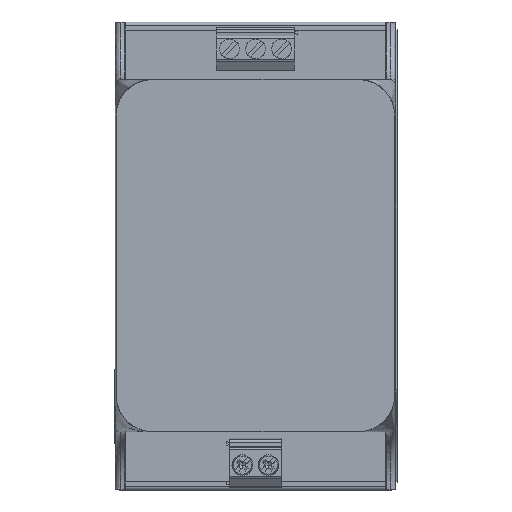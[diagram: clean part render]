
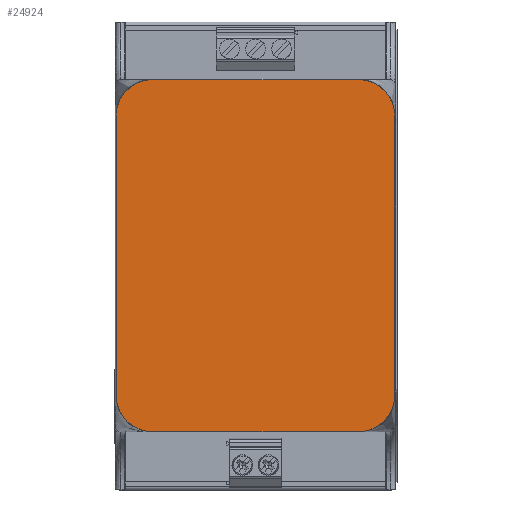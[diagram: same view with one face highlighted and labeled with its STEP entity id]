
A CAD part, top view. The second image highlights one B-rep face of the part: STEP entity #24924.
In plain terms, the highlighted planar face has unit normal (0, 0, 1).
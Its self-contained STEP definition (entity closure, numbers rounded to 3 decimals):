
#985=CIRCLE('',#26637,7.);
#986=CIRCLE('',#26640,7.);
#987=CIRCLE('',#26641,7.);
#988=CIRCLE('',#26642,7.);
#2390=FACE_OUTER_BOUND('',#3748,.T.);
#3748=EDGE_LOOP('',(#22212,#22213,#22214,#22215,#22216,#22217,#22218,#22219));
#6564=LINE('',#43582,#9373);
#6566=LINE('',#43586,#9375);
#6567=LINE('',#43590,#9376);
#6568=LINE('',#43594,#9377);
#9373=VECTOR('',#32819,10.);
#9375=VECTOR('',#32823,10.);
#9376=VECTOR('',#32826,10.);
#9377=VECTOR('',#32829,10.);
#11681=VERTEX_POINT('',#43575);
#11682=VERTEX_POINT('',#43577);
#11683=VERTEX_POINT('',#43581);
#11684=VERTEX_POINT('',#43585);
#11685=VERTEX_POINT('',#43587);
#11686=VERTEX_POINT('',#43589);
#11687=VERTEX_POINT('',#43591);
#11688=VERTEX_POINT('',#43593);
#15211=EDGE_CURVE('',#11681,#11682,#985,.T.);
#15213=EDGE_CURVE('',#11683,#11682,#6564,.T.);
#15215=EDGE_CURVE('',#11681,#11684,#6566,.T.);
#15216=EDGE_CURVE('',#11685,#11684,#986,.T.);
#15217=EDGE_CURVE('',#11685,#11686,#6567,.T.);
#15218=EDGE_CURVE('',#11687,#11686,#987,.T.);
#15219=EDGE_CURVE('',#11687,#11688,#6568,.T.);
#15220=EDGE_CURVE('',#11683,#11688,#988,.T.);
#22212=ORIENTED_EDGE('',*,*,#15211,.F.);
#22213=ORIENTED_EDGE('',*,*,#15215,.T.);
#22214=ORIENTED_EDGE('',*,*,#15216,.F.);
#22215=ORIENTED_EDGE('',*,*,#15217,.T.);
#22216=ORIENTED_EDGE('',*,*,#15218,.F.);
#22217=ORIENTED_EDGE('',*,*,#15219,.T.);
#22218=ORIENTED_EDGE('',*,*,#15220,.F.);
#22219=ORIENTED_EDGE('',*,*,#15213,.T.);
#23239=PLANE('',#26639);
#24924=ADVANCED_FACE('',(#2390),#23239,.T.);
#26637=AXIS2_PLACEMENT_3D('',#43578,#32814,#32815);
#26639=AXIS2_PLACEMENT_3D('',#43584,#32821,#32822);
#26640=AXIS2_PLACEMENT_3D('',#43588,#32824,#32825);
#26641=AXIS2_PLACEMENT_3D('',#43592,#32827,#32828);
#26642=AXIS2_PLACEMENT_3D('',#43595,#32830,#32831);
#32814=DIRECTION('center_axis',(0.,0.,
-1.));
#32815=DIRECTION('ref_axis',(-0.707,0.707,0.));
#32819=DIRECTION('',(-1.,0.,0.));
#32821=DIRECTION('center_axis',(0.,0.,
1.));
#32822=DIRECTION('ref_axis',(1.,0.,0.));
#32823=DIRECTION('',(0.,-1.,0.));
#32824=DIRECTION('center_axis',(0.,0.,
-1.));
#32825=DIRECTION('ref_axis',(-0.707,-0.707,0.));
#32826=DIRECTION('',(1.,0.,0.));
#32827=DIRECTION('center_axis',(0.,0.,
-1.));
#32828=DIRECTION('ref_axis',(0.707,-0.707,0.));
#32829=DIRECTION('',(0.,1.,0.));
#32830=DIRECTION('center_axis',(0.,0.,
-1.));
#32831=DIRECTION('ref_axis',(0.707,0.707,0.));
#43575=CARTESIAN_POINT('',(-26.728,26.772,27.886));
#43577=CARTESIAN_POINT('',(-19.727,33.772,27.886));
#43578=CARTESIAN_POINT('Origin',(-19.728,26.772,27.886));
#43581=CARTESIAN_POINT('',(19.727,33.772,27.886));
#43582=CARTESIAN_POINT('',(26.727,33.772,27.886));
#43584=CARTESIAN_POINT('Origin',(-17.832,-5.79,27.886));
#43585=CARTESIAN_POINT('',(-26.728,-26.772,27.886));
#43586=CARTESIAN_POINT('',(-26.727,33.772,27.886));
#43587=CARTESIAN_POINT('',(-19.728,-33.772,27.886));
#43588=CARTESIAN_POINT('Origin',(-19.728,-26.772,27.886));
#43589=CARTESIAN_POINT('',(19.727,-33.772,27.886));
#43590=CARTESIAN_POINT('',(-26.728,-33.772,27.886));
#43591=CARTESIAN_POINT('',(26.727,-26.772,27.886));
#43592=CARTESIAN_POINT('Origin',(19.727,-26.772,27.886));
#43593=CARTESIAN_POINT('',(26.727,26.772,27.886));
#43594=CARTESIAN_POINT('',(26.727,-33.772,27.886));
#43595=CARTESIAN_POINT('Origin',(19.727,26.772,27.886));
